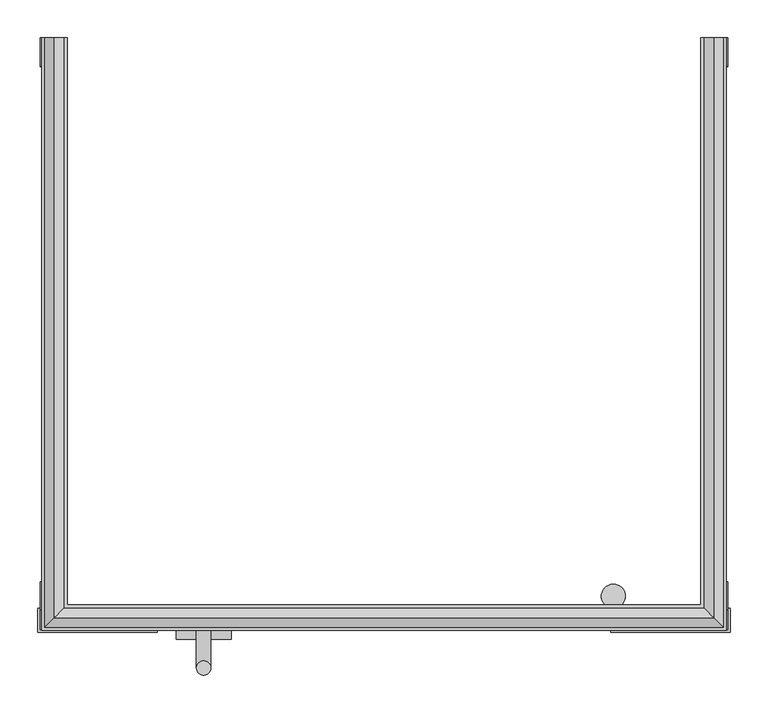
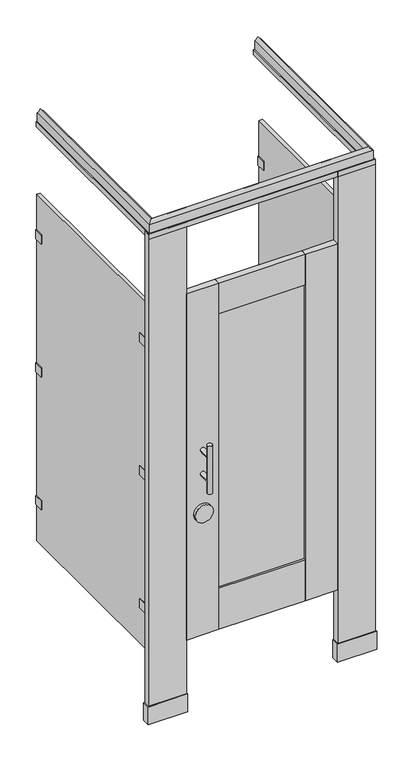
"""IFC4 building model written with IfcOpenShell, lengths in millimetres: proxy geometry, Toilet-Partition_Ironwood-Mfg_Compact-Laminate : Compact Laminate - Headrail Braced - Door Lite Door."""

from ifc_helpers import new_model, si_unit, point, frame, frame_2d, origin, origin_with_axes, place, context, project, spatial, polyline, circle_curve, ellipse_curve, trimmed, segment, composite_curve, outline, extrude, source, transform, mapped, element, save
from ifc_brep_helpers import plane_surface, cylinder_surface, revolved_surface, advanced_brep


def specialty_equipment_b772b144(model_context):
    return source(origin(), model_context, "Body", "SolidModel", [
        extrude(outline(polyline([(701.675, -758.825), (701.675, -790.575), (542.925, -790.575), (542.925, -758.825), (701.675, -758.825)])), origin_with_axes(), (0.0, 0.0, 1.0), 76.2),
        extrude(outline(polyline([(698.5, -762.0), (698.5, -787.4), (546.1, -787.4), (546.1, -762.0), (698.5, -762.0)])), origin_with_axes(), (0.0, 0.0, 1.0), 2082.8),
        extrude(outline(polyline([(-219.075, -758.825), (-60.325, -758.825), (-60.325, -790.575), (-219.075, -790.575), (-219.075, -758.825)])), origin_with_axes(), (0.0, 0.0, 1.0), 76.2),
        extrude(outline(polyline([(-215.9, -762.0), (-63.5, -762.0), (-63.5, -787.4), (-215.9, -787.4), (-215.9, -762.0)])), origin_with_axes(), (0.0, 0.0, 1.0), 2082.8),
        extrude(outline(polyline([(415.925, -779.4625), (66.675, -779.4625), (66.675, -769.9375), (415.925, -769.9375), (415.925, -779.4625)])), frame((0.0, 0.0, 479.425), z_axis=(0.0, 0.0, 1.0), x_axis=(1.0, 0.0, 0.0)), (0.0, 0.0, 1.0), 1168.4),
        extrude(outline(polyline([(66.675, -762.0), (66.675, -787.4), (-63.5, -787.4), (-63.5, -762.0), (66.675, -762.0)])), frame((0.0, 0.0, 304.8), z_axis=(0.0, 0.0, 1.0), x_axis=(1.0, 0.0, 0.0)), (0.0, 0.0, 1.0), 1473.2),
        extrude(outline(polyline([(415.925, -762.0), (546.1, -762.0), (546.1, -787.4), (415.925, -787.4), (415.925, -762.0)])), frame((0.0, 0.0, 304.8), z_axis=(0.0, 0.0, 1.0), x_axis=(1.0, 0.0, 0.0)), (0.0, 0.0, 1.0), 1473.2),
        extrude(outline(polyline([(415.925, -762.0), (415.925, -787.4), (66.675, -787.4), (66.675, -762.0), (415.925, -762.0)])), frame((0.0, 0.0, 1647.825), z_axis=(0.0, 0.0, 1.0), x_axis=(1.0, 0.0, 0.0)), (0.0, 0.0, 1.0), 130.175),
        extrude(outline(polyline([(415.925, -762.0), (415.925, -787.4), (66.675, -787.4), (66.675, -762.0), (415.925, -762.0)])), frame((0.0, 0.0, 304.8), z_axis=(0.0, 0.0, 1.0), x_axis=(1.0, 0.0, 0.0)), (0.0, 0.0, 1.0), 174.625),
        extrude(outline(composite_curve([segment(trimmed(circle_curve(frame_2d((827.0875, 1.5875)), 36.5125), [point((827.0875, -34.925))], [point((827.0875, 38.1))], False, "CARTESIAN"), True, "CONTINUOUS"), segment(trimmed(circle_curve(frame_2d((827.0875, 1.5875)), 36.5125), [point((827.0875, 38.1))], [point((827.0875, -34.925))], False, "CARTESIAN"), True, "CONTINUOUS")], self_intersect=False)), frame((0.0, -800.1, 0.0), z_axis=(0.0, 1.0, 0.0), x_axis=(0.0, 0.0, 1.0)), (0.0, 0.0, 1.0), 12.7),
        advanced_brep(
        [(-7.9375, -787.4, 1092.2), (11.1125, -787.4, 1092.2), (-7.9375, -787.4, 990.6), (11.1125, -787.4, 990.6), (11.1125, -838.2, 1092.2), (-7.9375, -838.2, 1092.2), (11.1125, -838.2, 990.6), (-7.9375, -838.2, 990.6), (-7.9375, -838.2, 1143.0), (11.1125, -838.2, 1143.0), (-7.9375, -838.2, 939.8), (11.1125, -838.2, 939.8)],
        [
            (0, 1, circle_curve(frame((1.5875, -787.4, 1092.2), z_axis=(0.0, 1.0, 0.0), x_axis=(1.0, 0.0, 0.0)), 9.525)),
            (1, 0, circle_curve(frame((1.5875, -787.4, 1092.2), z_axis=(0.0, 1.0, 0.0), x_axis=(1.0, 0.0, 0.0)), 9.525)),
            (2, 3, circle_curve(frame((1.5875, -787.4, 990.6), z_axis=(0.0, 1.0, 0.0), x_axis=(1.0, 0.0, 0.0)), 9.525)),
            (3, 2, circle_curve(frame((1.5875, -787.4, 990.6), z_axis=(0.0, 1.0, 0.0), x_axis=(1.0, 0.0, 0.0)), 9.525)),
            (1, 4),
            (4, 5, ellipse_curve(frame((1.5875, -838.2, 1092.2), z_axis=(0.0, 0.7071067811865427, 0.7071067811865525), x_axis=(0.0, -0.7071067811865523, 0.7071067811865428)), 13.4703842, 9.525)),
            (5, 0),
            (5, 4, ellipse_curve(frame((1.5875, -838.2, 1092.2), z_axis=(0.0, 0.7071067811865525, -0.7071067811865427), x_axis=(0.0, -0.7071067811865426, -0.7071067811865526)), 13.4703842, 9.525)),
            (3, 6),
            (6, 7, ellipse_curve(frame((1.5875, -838.2, 990.6), z_axis=(0.0, 0.7071067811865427, 0.7071067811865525), x_axis=(0.0, -0.7071067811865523, 0.7071067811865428)), 13.4703842, 9.525)),
            (7, 2),
            (7, 6, ellipse_curve(frame((1.5875, -838.2, 990.6), z_axis=(0.0, 0.7071067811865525, -0.7071067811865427), x_axis=(0.0, -0.7071067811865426, -0.7071067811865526)), 13.4703842, 9.525)),
            (8, 9, circle_curve(frame((1.5875, -838.2, 1143.0), z_axis=(0.0, 0.0, 1.0), x_axis=(1.0, 0.0, 0.0)), 9.525)),
            (9, 8, circle_curve(frame((1.5875, -838.2, 1143.0), z_axis=(0.0, 0.0, 1.0), x_axis=(1.0, 0.0, 0.0)), 9.525)),
            (10, 11, circle_curve(frame((1.5875, -838.2, 939.8), z_axis=(0.0, 0.0, -1.0), x_axis=(1.0, 0.0, 0.0)), 9.525)),
            (11, 10, circle_curve(frame((1.5875, -838.2, 939.8), z_axis=(0.0, 0.0, -1.0), x_axis=(1.0, 0.0, 0.0)), 9.525)),
            (8, 5),
            (5, 7),
            (7, 10),
            (11, 6),
            (6, 4),
            (4, 9),
        ],
        [
            plane_surface(frame((11.1125, -787.4, 1092.2), z_axis=(0.0, 1.0, 0.0), x_axis=(0.0, 0.0, -1.0))),
            cylinder_surface(frame((1.5875, -787.4, 1092.2), z_axis=(0.0, -1.0, 0.0), x_axis=(1.0, 0.0, 0.0)), 9.525),
            cylinder_surface(frame((1.5875, -787.4, 990.6), z_axis=(0.0, -1.0, 0.0), x_axis=(1.0, 0.0, 0.0)), 9.525),
            plane_surface(frame((11.1125, -838.2, 1143.0), z_axis=(0.0, 0.0, 1.0), x_axis=(0.0, 1.0, 0.0))),
            plane_surface(frame((11.1125, -838.2, 939.8), z_axis=(0.0, 0.0, -1.0), x_axis=(0.0, -1.0, 0.0))),
            cylinder_surface(frame((1.5875, -838.2, 939.8), z_axis=(0.0, 0.0, 1.0), x_axis=(1.0, 0.0, 0.0)), 9.525),
        ],
        [
            (0, [[1, 2]]),
            (0, [[3, 4]]),
            (1, [[-2, 5, 6, 7]]),
            (1, [[-1, -7, 8, -5]]),
            (2, [[-4, 9, 10, 11]]),
            (2, [[-3, -11, 12, -9]]),
            (3, [[13, 14]]),
            (4, [[15, 16]]),
            (5, [[-13, 17, 18, 19, -16, 20, 21, 22]]),
            (5, [[-14, -22, -8, -17]]),
            (5, [[-15, -19, -10, -20]]),
            (5, [[-18, -6, -21, -12]]),
        ],
    ),
        extrude(outline(composite_curve([segment(polyline([(581.3737081, -762.0), (505.1737081, -762.0), (505.1737081, -758.825), (533.7487081, -758.825), (533.7487081, -752.9581331)]), True, "CONTINUOUS"), segment(trimmed(circle_curve(frame_2d((546.1, -742.8902139)), 15.9347861), [point((533.7487081, -752.9581331))], [point((558.4512919, -752.9581331))], False, "CARTESIAN"), True, "CONTINUOUS"), segment(polyline([(558.4512919, -752.9581331), (558.4512919, -758.825), (581.3737081, -758.825), (581.3737081, -762.0)]), True, "CONTINUOUS")], self_intersect=False)), frame((0.0, 0.0, 1574.8), z_axis=(0.0, 0.0, 1.0), x_axis=(1.0, 0.0, 0.0)), (0.0, 0.0, 1.0), 63.5),
        extrude(outline(composite_curve([segment(polyline([(581.3737081, -762.0), (505.1737081, -762.0), (505.1737081, -758.825), (533.7487081, -758.825), (533.7487081, -752.9581331)]), True, "CONTINUOUS"), segment(trimmed(circle_curve(frame_2d((546.1, -742.8902139)), 15.9347861), [point((533.7487081, -752.9581331))], [point((558.4512919, -752.9581331))], False, "CARTESIAN"), True, "CONTINUOUS"), segment(polyline([(558.4512919, -752.9581331), (558.4512919, -758.825), (581.3737081, -758.825), (581.3737081, -762.0)]), True, "CONTINUOUS")], self_intersect=False)), frame((0.0, 0.0, 1009.6500001), z_axis=(0.0, 0.0, 1.0), x_axis=(1.0, 0.0, 0.0)), (0.0, 0.0, 1.0), 63.5),
        extrude(outline(composite_curve([segment(polyline([(581.3737081, -762.0), (505.1737081, -762.0), (505.1737081, -758.825), (533.7487081, -758.825), (533.7487081, -752.9581331)]), True, "CONTINUOUS"), segment(trimmed(circle_curve(frame_2d((546.1, -742.8902139)), 15.9347861), [point((533.7487081, -752.9581331))], [point((558.4512919, -752.9581331))], False, "CARTESIAN"), True, "CONTINUOUS"), segment(polyline([(558.4512919, -752.9581331), (558.4512919, -758.825), (581.3737081, -758.825), (581.3737081, -762.0)]), True, "CONTINUOUS")], self_intersect=False)), frame((0.0, 0.0, 444.5), z_axis=(0.0, 0.0, 1.0), x_axis=(1.0, 0.0, 0.0)), (0.0, 0.0, 1.0), 63.5),
        extrude(outline(polyline([(682.498, -723.9), (682.498, -758.825), (695.198, -758.825), (695.198, -723.9), (698.373, -723.9), (698.373, -762.0), (679.323, -762.0), (679.323, -723.9), (682.498, -723.9)])), frame((0.0, 0.0, 1587.8188137), z_axis=(0.0, 0.0, 1.0), x_axis=(1.0, 0.0, 0.0)), (0.0, 0.0, 1.0), 38.1),
        extrude(outline(polyline([(682.498, -38.1), (679.323, -38.1), (679.323, 0.0), (698.373, 0.0), (698.373, -38.1), (695.198, -38.1), (695.198, -3.175), (682.498, -3.175), (682.498, -38.1)])), frame((0.0, 0.0, 1587.8188137), z_axis=(0.0, 0.0, 1.0), x_axis=(1.0, 0.0, 0.0)), (0.0, 0.0, 1.0), 38.1),
        extrude(outline(polyline([(682.498, -723.9), (682.498, -758.825), (695.198, -758.825), (695.198, -723.9), (698.373, -723.9), (698.373, -762.0), (679.323, -762.0), (679.323, -723.9), (682.498, -723.9)])), frame((0.0, 0.0, 1022.35), z_axis=(0.0, 0.0, 1.0), x_axis=(1.0, 0.0, 0.0)), (0.0, 0.0, 1.0), 38.1),
        extrude(outline(polyline([(682.498, -38.1), (679.323, -38.1), (679.323, 0.0), (698.373, 0.0), (698.373, -38.1), (695.198, -38.1), (695.198, -3.175), (682.498, -3.175), (682.498, -38.1)])), frame((0.0, 0.0, 1022.35), z_axis=(0.0, 0.0, 1.0), x_axis=(1.0, 0.0, 0.0)), (0.0, 0.0, 1.0), 38.1),
        extrude(outline(polyline([(682.498, -723.9), (682.498, -758.825), (695.198, -758.825), (695.198, -723.9), (698.373, -723.9), (698.373, -762.0), (679.323, -762.0), (679.323, -723.9), (682.498, -723.9)])), frame((0.0, 0.0, 457.2), z_axis=(0.0, 0.0, 1.0), x_axis=(1.0, 0.0, 0.0)), (0.0, 0.0, 1.0), 38.1),
        extrude(outline(polyline([(682.498, -38.1), (679.323, -38.1), (679.323, 0.0), (698.373, 0.0), (698.373, -38.1), (695.198, -38.1), (695.198, -3.175), (682.498, -3.175), (682.498, -38.1)])), frame((0.0, 0.0, 457.2), z_axis=(0.0, 0.0, 1.0), x_axis=(1.0, 0.0, 0.0)), (0.0, 0.0, 1.0), 38.1),
        extrude(outline(polyline([(-212.598, -723.9), (-212.598, -758.825), (-199.898, -758.825), (-199.898, -723.9), (-196.723, -723.9), (-196.723, -762.0), (-215.773, -762.0), (-215.773, -723.9), (-212.598, -723.9)])), frame((0.0, 0.0, 1587.8188137), z_axis=(0.0, 0.0, 1.0), x_axis=(1.0, 0.0, 0.0)), (0.0, 0.0, 1.0), 38.1),
        extrude(outline(polyline([(-212.598, -38.1), (-215.773, -38.1), (-215.773, 0.0), (-196.723, 0.0), (-196.723, -38.1), (-199.898, -38.1), (-199.898, -3.175), (-212.598, -3.175), (-212.598, -38.1)])), frame((0.0, 0.0, 1587.8188137), z_axis=(0.0, 0.0, 1.0), x_axis=(1.0, 0.0, 0.0)), (0.0, 0.0, 1.0), 38.1),
        extrude(outline(polyline([(-212.598, -723.9), (-212.598, -758.825), (-199.898, -758.825), (-199.898, -723.9), (-196.723, -723.9), (-196.723, -762.0), (-215.773, -762.0), (-215.773, -723.9), (-212.598, -723.9)])), frame((0.0, 0.0, 1022.35), z_axis=(0.0, 0.0, 1.0), x_axis=(1.0, 0.0, 0.0)), (0.0, 0.0, 1.0), 38.1),
        extrude(outline(polyline([(-212.598, -38.1), (-215.773, -38.1), (-215.773, 0.0), (-196.723, 0.0), (-196.723, -38.1), (-199.898, -38.1), (-199.898, -3.175), (-212.598, -3.175), (-212.598, -38.1)])), frame((0.0, 0.0, 1022.35), z_axis=(0.0, 0.0, 1.0), x_axis=(1.0, 0.0, 0.0)), (0.0, 0.0, 1.0), 38.1),
        extrude(outline(polyline([(-212.598, -723.9), (-212.598, -758.825), (-199.898, -758.825), (-199.898, -723.9), (-196.723, -723.9), (-196.723, -762.0), (-215.773, -762.0), (-215.773, -723.9), (-212.598, -723.9)])), frame((0.0, 0.0, 457.2), z_axis=(0.0, 0.0, 1.0), x_axis=(1.0, 0.0, 0.0)), (0.0, 0.0, 1.0), 38.1),
        extrude(outline(polyline([(-212.598, -38.1), (-215.773, -38.1), (-215.773, 0.0), (-196.723, 0.0), (-196.723, -38.1), (-199.898, -38.1), (-199.898, -3.175), (-212.598, -3.175), (-212.598, -38.1)])), frame((0.0, 0.0, 457.2), z_axis=(0.0, 0.0, 1.0), x_axis=(1.0, 0.0, 0.0)), (0.0, 0.0, 1.0), 38.1),
        extrude(outline(polyline([(-199.898, -3.175), (-199.898, -758.825), (-212.598, -758.825), (-212.598, -3.175), (-199.898, -3.175)])), frame((0.0, 0.0, 304.8), z_axis=(0.0, 0.0, 1.0), x_axis=(1.0, 0.0, 0.0)), (0.0, 0.0, 1.0), 1473.2),
        extrude(outline(polyline([(695.198, -3.175), (695.198, -758.825), (682.498, -758.825), (682.498, -3.175), (695.198, -3.175)])), frame((0.0, 0.0, 304.8), z_axis=(0.0, 0.0, 1.0), x_axis=(1.0, 0.0, 0.0)), (0.0, 0.0, 1.0), 1473.2),
        advanced_brep(
        [(663.448, 0.0, 2063.75), (662.257375, 0.0, 2063.75), (662.257375, 0.0, 2083.990625), (666.623, 0.0, 2083.990625), (666.623, 0.0, 2120.9), (679.323, 0.0, 2133.6), (692.023, 0.0, 2120.9), (692.023, 0.0, 2083.990625), (696.388625, 0.0, 2083.990625), (696.388625, 0.0, 2063.75), (695.198, 0.0, 2063.75), (695.198, 0.0, 2082.8), (663.448, 0.0, 2082.8), (667.813625, 0.0, 2119.709375), (667.813625, 0.0, 2083.990625), (690.832375, 0.0, 2083.990625), (690.832375, 0.0, 2119.709375), (679.323, 0.0, 2131.21875), (663.448, -755.65, 2063.75), (663.448, -755.65, 2082.8), (-180.848, -755.65, 2082.8), (-180.848, -755.65, 2063.75), (695.198, -787.4, 2082.8), (695.198, -787.4, 2063.75), (-212.598, -787.4, 2063.75), (-212.598, -787.4, 2082.8), (696.388625, -788.590625, 2063.75), (696.388625, -788.590625, 2083.990625), (-213.788625, -788.590625, 2083.990625), (-213.788625, -788.590625, 2063.75), (692.023, -784.225, 2083.990625), (692.023, -784.225, 2120.9), (-209.423, -784.225, 2120.9), (-209.423, -784.225, 2083.990625), (679.323, -771.525, 2133.6), (-196.723, -771.525, 2133.6), (666.623, -758.825, 2120.9), (-184.023, -758.825, 2120.9), (666.623, -758.825, 2083.990625), (-184.023, -758.825, 2083.990625), (662.257375, -754.459375, 2083.990625), (662.257375, -754.459375, 2063.75), (-179.657375, -754.459375, 2063.75), (-179.657375, -754.459375, 2083.990625), (667.813625, -760.015625, 2119.709375), (679.323, -771.525, 2131.21875), (-196.723, -771.525, 2131.21875), (-185.213625, -760.015625, 2119.709375), (690.832375, -783.034375, 2119.709375), (-208.232375, -783.034375, 2119.709375), (690.832375, -783.034375, 2083.990625), (-208.232375, -783.034375, 2083.990625), (667.813625, -760.015625, 2083.990625), (-185.213625, -760.015625, 2083.990625), (-180.848, 0.0, 2063.75), (-180.848, 0.0, 2082.8), (-212.598, 0.0, 2082.8), (-212.598, 0.0, 2063.75), (-213.788625, 0.0, 2063.75), (-213.788625, 0.0, 2083.990625), (-209.423, 0.0, 2083.990625), (-209.423, 0.0, 2120.9), (-196.723, 0.0, 2133.6), (-184.023, 0.0, 2120.9), (-184.023, 0.0, 2083.990625), (-179.657375, 0.0, 2083.990625), (-179.657375, 0.0, 2063.75), (-185.213625, 0.0, 2119.709375), (-196.723, 0.0, 2131.21875), (-208.232375, 0.0, 2119.709375), (-208.232375, 0.0, 2083.990625), (-185.213625, 0.0, 2083.990625)],
        [
            (0, 1),
            (1, 2),
            (2, 3),
            (3, 4),
            (4, 5, circle_curve(frame((649.9091809, 0.0, 2150.3138191), z_axis=(0.0, -1.0, 0.0), x_axis=(1.0, 0.0, 0.0)), 33.8308218)),
            (5, 6, circle_curve(frame((708.7368191, 0.0, 2150.3138191), z_axis=(0.0, -1.0, 0.0), x_axis=(1.0, 0.0, 0.0)), 33.8308218)),
            (6, 7),
            (7, 8),
            (8, 9),
            (9, 10),
            (10, 11),
            (11, 12),
            (12, 0),
            (13, 14),
            (14, 15),
            (15, 16),
            (16, 17, circle_curve(frame((709.9824574, 0.0, 2150.3688324), z_axis=(0.0, 1.0, 0.0), x_axis=(1.0, 0.0, 0.0)), 36.1486927)),
            (17, 13, circle_curve(frame((648.6635426, 0.0, 2150.3688324), z_axis=(0.0, 1.0, 0.0), x_axis=(1.0, 0.0, 0.0)), 36.1486927)),
            (18, 19),
            (19, 20),
            (20, 21),
            (21, 18),
            (22, 23),
            (23, 24),
            (24, 25),
            (25, 22),
            (26, 27),
            (27, 28),
            (28, 29),
            (29, 26),
            (30, 31),
            (31, 32),
            (32, 33),
            (33, 30),
            (31, 34, ellipse_curve(frame((708.7368191, -800.9388191, 2150.3138191), z_axis=(0.7071067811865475, 0.7071067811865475, 0.0), x_axis=(-0.7071067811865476, 0.7071067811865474, 0.0)), 47.844007, 33.8308218)),
            (34, 35),
            (35, 32, ellipse_curve(frame((-226.1368191, -800.9388191, 2150.3138191), z_axis=(-0.7071067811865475, 0.7071067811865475, 0.0), x_axis=(-0.7071067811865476, -0.7071067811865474, 0.0)), 47.844007, 33.8308218)),
            (34, 36, ellipse_curve(frame((649.9091809, -742.1111809, 2150.3138191), z_axis=(0.7071067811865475, 0.7071067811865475, 0.0), x_axis=(-0.7071067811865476, 0.7071067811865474, 0.0)), 47.844007, 33.8308218)),
            (36, 37),
            (37, 35, ellipse_curve(frame((-167.3091809, -742.1111809, 2150.3138191), z_axis=(-0.7071067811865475, 0.7071067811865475, 0.0), x_axis=(-0.7071067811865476, -0.7071067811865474, 0.0)), 47.844007, 33.8308218)),
            (36, 38),
            (38, 39),
            (39, 37),
            (40, 41),
            (41, 42),
            (42, 43),
            (43, 40),
            (44, 45, ellipse_curve(frame((648.6635426, -740.8655426, 2150.3688324), z_axis=(-0.7071067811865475, -0.7071067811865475, 0.0), x_axis=(0.7071067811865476, -0.7071067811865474, 0.0)), 51.1219715, 36.1486927)),
            (45, 46),
            (46, 47, ellipse_curve(frame((-166.0635426, -740.8655426, 2150.3688324), z_axis=(0.7071067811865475, -0.7071067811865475, 0.0), x_axis=(0.7071067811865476, 0.7071067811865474, 0.0)), 51.1219715, 36.1486927)),
            (47, 44),
            (45, 48, ellipse_curve(frame((709.9824574, -802.1844574, 2150.3688324), z_axis=(-0.7071067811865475, -0.7071067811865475, 0.0), x_axis=(0.7071067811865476, -0.7071067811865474, 0.0)), 51.1219715, 36.1486927)),
            (48, 49),
            (49, 46, ellipse_curve(frame((-227.3824574, -802.1844574, 2150.3688324), z_axis=(0.7071067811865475, -0.7071067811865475, 0.0), x_axis=(0.7071067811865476, 0.7071067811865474, 0.0)), 51.1219715, 36.1486927)),
            (48, 50),
            (50, 51),
            (51, 49),
            (52, 44),
            (47, 53),
            (53, 52),
            (54, 55),
            (55, 56),
            (56, 57),
            (57, 58),
            (58, 59),
            (59, 60),
            (60, 61),
            (61, 62, circle_curve(frame((-226.1368191, 0.0, 2150.3138191), z_axis=(0.0, -1.0, 0.0), x_axis=(-1.0, 0.0, 0.0)), 33.8308218)),
            (62, 63, circle_curve(frame((-167.3091809, 0.0, 2150.3138191), z_axis=(0.0, -1.0, 0.0), x_axis=(-1.0, 0.0, 0.0)), 33.8308218)),
            (63, 64),
            (64, 65),
            (65, 66),
            (66, 54),
            (67, 68, circle_curve(frame((-166.0635426, 0.0, 2150.3688324), z_axis=(0.0, 1.0, 0.0), x_axis=(-1.0, 0.0, 0.0)), 36.1486927)),
            (68, 69, circle_curve(frame((-227.3824574, 0.0, 2150.3688324), z_axis=(0.0, 1.0, 0.0), x_axis=(-1.0, 0.0, 0.0)), 36.1486927)),
            (69, 70),
            (70, 71),
            (71, 67),
            (20, 55),
            (54, 21),
            (24, 57),
            (56, 25),
            (28, 59),
            (58, 29),
            (32, 61),
            (60, 33),
            (35, 62),
            (37, 63),
            (39, 64),
            (42, 66),
            (65, 43),
            (46, 68),
            (67, 47),
            (49, 69),
            (51, 70),
            (71, 53),
            (0, 18),
            (41, 1),
            (40, 2),
            (38, 3),
            (36, 4),
            (34, 5),
            (31, 6),
            (30, 7),
            (27, 8),
            (26, 9),
            (23, 10),
            (22, 11),
            (19, 12),
            (13, 44),
            (52, 14),
            (50, 15),
            (48, 16),
            (45, 17),
        ],
        [
            plane_surface(frame((695.198, 0.0, 0.0), z_axis=(0.0, 1.0, 0.0), x_axis=(0.0, 0.0, 1.0))),
            plane_surface(frame((663.448, -755.65, 2082.8), z_axis=(0.0, -1.0, 0.0), x_axis=(-1.0, 0.0, 0.0))),
            plane_surface(frame((695.198, -787.4, 2063.75), z_axis=(0.0, 1.0, 0.0), x_axis=(-1.0, 0.0, 0.0))),
            plane_surface(frame((696.388625, -788.590625, 2083.990625), z_axis=(0.0, -1.0, 0.0), x_axis=(-1.0, 0.0, 0.0))),
            plane_surface(frame((692.023, -784.225, 2120.9), z_axis=(0.0, -1.0, 0.0), x_axis=(-1.0, 0.0, 0.0))),
            revolved_surface(polyline([(-259.9676408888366, -834.7696409, 2150.3138191), (742.5676408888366, -834.7696409, 2150.3138191)]), (695.198, -800.9388191, 2150.3138191), (-1.0, 0.0, 0.0)),
            revolved_surface(polyline([(-201.1400026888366, -775.9420027, 2150.3138191), (683.7400026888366, -775.9420027, 2150.3138191)]), (695.198, -742.1111809, 2150.3138191), (-1.0, 0.0, 0.0)),
            plane_surface(frame((666.623, -758.825, 2083.990625), z_axis=(0.0, 1.0, 0.0), x_axis=(-1.0, 0.0, 0.0))),
            plane_surface(frame((662.257375, -754.459375, 2063.75), z_axis=(0.0, 1.0, 0.0), x_axis=(-1.0, 0.0, 0.0))),
            cylinder_surface(frame((695.198, -740.8655426, 2150.3688324), z_axis=(1.0, 0.0, 0.0), x_axis=(0.0, -1.0, 0.0)), 36.1486927),
            cylinder_surface(frame((695.198, -802.1844574, 2150.3688324), z_axis=(1.0, 0.0, 0.0), x_axis=(0.0, -1.0, 0.0)), 36.1486927),
            plane_surface(frame((690.832375, -783.034375, 2083.990625), z_axis=(0.0, 1.0, 0.0), x_axis=(-1.0, 0.0, 0.0))),
            plane_surface(frame((667.813625, -760.015625, 2119.709375), z_axis=(0.0, -1.0, 0.0), x_axis=(-1.0, 0.0, 0.0))),
            plane_surface(frame((-212.598, 0.0, 0.0), z_axis=(0.0, 1.0, 0.0), x_axis=(0.0, 0.0, 1.0))),
            plane_surface(frame((-180.848, -755.65, 2082.8), z_axis=(-1.0, 0.0, 0.0), x_axis=(0.0, 1.0, 0.0))),
            plane_surface(frame((-212.598, -787.4, 2063.75), z_axis=(1.0, 0.0, 0.0), x_axis=(0.0, 1.0, 0.0))),
            plane_surface(frame((-213.788625, -788.590625, 2083.990625), z_axis=(-1.0, 0.0, 0.0), x_axis=(0.0, 1.0, 0.0))),
            plane_surface(frame((-209.423, -784.225, 2120.9), z_axis=(-1.0, 0.0, 0.0), x_axis=(0.0, 1.0, 0.0))),
            revolved_surface(polyline([(-259.9676409, 0.0, 2150.3138191), (-259.9676409, -834.7696408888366, 2150.3138191)]), (-226.1368191, -787.4, 2150.3138191), (0.0, 1.0, 0.0)),
            revolved_surface(polyline([(-201.1400027, 0.0, 2150.3138191), (-201.1400027, -775.9420026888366, 2150.3138191)]), (-167.3091809, -787.4, 2150.3138191), (0.0, 1.0, 0.0)),
            plane_surface(frame((-184.023, -758.825, 2083.990625), z_axis=(1.0, 0.0, 0.0), x_axis=(0.0, 1.0, 0.0))),
            plane_surface(frame((-179.657375, -754.459375, 2063.75), z_axis=(1.0, 0.0, 0.0), x_axis=(0.0, 1.0, 0.0))),
            cylinder_surface(frame((-166.0635426, -787.4, 2150.3688324), z_axis=(0.0, -1.0, 0.0), x_axis=(-1.0, 0.0, 0.0)), 36.1486927),
            cylinder_surface(frame((-227.3824574, -787.4, 2150.3688324), z_axis=(0.0, -1.0, 0.0), x_axis=(-1.0, 0.0, 0.0)), 36.1486927),
            plane_surface(frame((-208.232375, -783.034375, 2083.990625), z_axis=(1.0, 0.0, 0.0), x_axis=(0.0, 1.0, 0.0))),
            plane_surface(frame((-185.213625, -760.015625, 2119.709375), z_axis=(-1.0, 0.0, 0.0), x_axis=(0.0, 1.0, 0.0))),
            plane_surface(frame((663.448, 0.0, 2063.75), z_axis=(0.0, 0.0, -1.0), x_axis=(0.0, -1.0, 0.0))),
            plane_surface(frame((662.257375, 0.0, 2063.75), z_axis=(-1.0, 0.0, 0.0), x_axis=(0.0, -1.0, 0.0))),
            plane_surface(frame((662.257375, 0.0, 2083.990625), z_axis=(0.0, 0.0, 1.0), x_axis=(0.0, -1.0, 0.0))),
            plane_surface(frame((666.623, 0.0, 2083.990625), z_axis=(-1.0, 0.0, 0.0), x_axis=(0.0, -1.0, 0.0))),
            revolved_surface(polyline([(683.7400027, -775.9420026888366, 2150.3138191), (683.7400027, 0.0, 2150.3138191)]), (649.9091809, 0.0, 2150.3138191), (0.0, -1.0, 0.0)),
            revolved_surface(polyline([(742.5676409, -834.7696408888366, 2150.3138191), (742.5676409, 0.0, 2150.3138191)]), (708.7368191, 0.0, 2150.3138191), (0.0, -1.0, 0.0)),
            plane_surface(frame((692.023, 0.0, 2120.9), z_axis=(1.0, 0.0, 0.0), x_axis=(0.0, -1.0, 0.0))),
            plane_surface(frame((692.023, 0.0, 2083.990625), z_axis=(0.0, 0.0, 1.0), x_axis=(0.0, -1.0, 0.0))),
            plane_surface(frame((696.388625, 0.0, 2083.990625), z_axis=(1.0, 0.0, 0.0), x_axis=(0.0, -1.0, 0.0))),
            plane_surface(frame((696.388625, 0.0, 2063.75), z_axis=(0.0, 0.0, -1.0), x_axis=(0.0, -1.0, 0.0))),
            plane_surface(frame((695.198, 0.0, 2063.75), z_axis=(-1.0, 0.0, 0.0), x_axis=(0.0, -1.0, 0.0))),
            plane_surface(frame((695.198, 0.0, 2082.8), z_axis=(0.0, 0.0, -1.0), x_axis=(0.0, -1.0, 0.0))),
            plane_surface(frame((663.448, 0.0, 2082.8), z_axis=(1.0, 0.0, 0.0), x_axis=(0.0, -1.0, 0.0))),
            plane_surface(frame((667.813625, 0.0, 2119.709375), z_axis=(1.0, 0.0, 0.0), x_axis=(0.0, -1.0, 0.0))),
            plane_surface(frame((667.813625, 0.0, 2083.990625), z_axis=(0.0, 0.0, 1.0), x_axis=(0.0, -1.0, 0.0))),
            plane_surface(frame((690.832375, 0.0, 2083.990625), z_axis=(-1.0, 0.0, 0.0), x_axis=(0.0, -1.0, 0.0))),
            cylinder_surface(frame((709.9824574, 0.0, 2150.3688324), z_axis=(0.0, 1.0, 0.0), x_axis=(1.0, 0.0, 0.0)), 36.1486927),
            cylinder_surface(frame((648.6635426, 0.0, 2150.3688324), z_axis=(0.0, 1.0, 0.0), x_axis=(1.0, 0.0, 0.0)), 36.1486927),
        ],
        [
            (0, [[1, 2, 3, 4, 5, 6, 7, 8, 9, 10, 11, 12, 13], [14, 15, 16, 17, 18]]),
            (1, [[19, 20, 21, 22]]),
            (2, [[23, 24, 25, 26]]),
            (3, [[27, 28, 29, 30]]),
            (4, [[31, 32, 33, 34]]),
            (5, [[35, 36, 37, -32]]),
            (6, [[38, 39, 40, -36]]),
            (7, [[41, 42, 43, -39]]),
            (8, [[44, 45, 46, 47]]),
            (9, [[48, 49, 50, 51]]),
            (10, [[52, 53, 54, -49]]),
            (11, [[55, 56, 57, -53]]),
            (12, [[58, -51, 59, 60]]),
            (13, [[61, 62, 63, 64, 65, 66, 67, 68, 69, 70, 71, 72, 73], [74, 75, 76, 77, 78]]),
            (14, [[-21, 79, -61, 80]]),
            (15, [[-25, 81, -63, 82]]),
            (16, [[-29, 83, -65, 84]]),
            (17, [[-33, 85, -67, 86]]),
            (18, [[-37, 87, -68, -85]]),
            (19, [[-40, 88, -69, -87]]),
            (20, [[-43, 89, -70, -88]]),
            (21, [[-46, 90, -72, 91]]),
            (22, [[-50, 92, -74, 93]]),
            (23, [[-54, 94, -75, -92]]),
            (24, [[-57, 95, -76, -94]]),
            (25, [[-59, -93, -78, 96]]),
            (26, [[-1, 97, -22, -80, -73, -90, -45, 98]]),
            (27, [[-2, -98, -44, 99]]),
            (28, [[-3, -99, -47, -91, -71, -89, -42, 100]]),
            (29, [[-4, -100, -41, 101]]),
            (30, [[-5, -101, -38, 102]]),
            (31, [[-6, -102, -35, 103]]),
            (32, [[-7, -103, -31, 104]]),
            (33, [[-8, -104, -34, -86, -66, -83, -28, 105]]),
            (34, [[-9, -105, -27, 106]]),
            (35, [[-10, -106, -30, -84, -64, -81, -24, 107]]),
            (36, [[-11, -107, -23, 108]]),
            (37, [[-12, -108, -26, -82, -62, -79, -20, 109]]),
            (38, [[-13, -109, -19, -97]]),
            (39, [[-14, 110, -58, 111]]),
            (40, [[-15, -111, -60, -96, -77, -95, -56, 112]]),
            (41, [[-16, -112, -55, 113]]),
            (42, [[-17, -113, -52, 114]]),
            (43, [[-18, -114, -48, -110]]),
        ],
    ),
    ])


if __name__ == "__main__":
    model = new_model("IFC4")
    model_context = context("Model", 3, world=origin())
    ifc_project = project(units=[si_unit("LENGTHUNIT", "METRE", prefix="MILLI")], contexts=[model_context])
    site = spatial("IfcSite", under=ifc_project)
    building = spatial("IfcBuilding", under=site)
    placement = place(None, origin())
    specialty_equipment_shape = specialty_equipment_b772b144(model_context)
    element("IfcBuildingElementProxy", 1, Name="Toilet-Partition_Ironwood-Mfg_Compact-Laminate : Compact Laminate - Headrail Braced - Door Lite Door", ObjectType="Toilet-Partition_Ironwood-Mfg_Compact-Laminate : Compact Laminate - Headrail Braced - Door Lite Door", at=placement, inside=building, context=model_context, shape_type="MappedRepresentation", body=[
        mapped(specialty_equipment_shape, transform((0.0, 0.0, 0.0), x_axis=(1.0, 0.0, 0.0), y_axis=(0.0, 1.0, 0.0), z_axis=(0.0, 0.0, 1.0))),
    ])
    save(model, "model.ifc")
